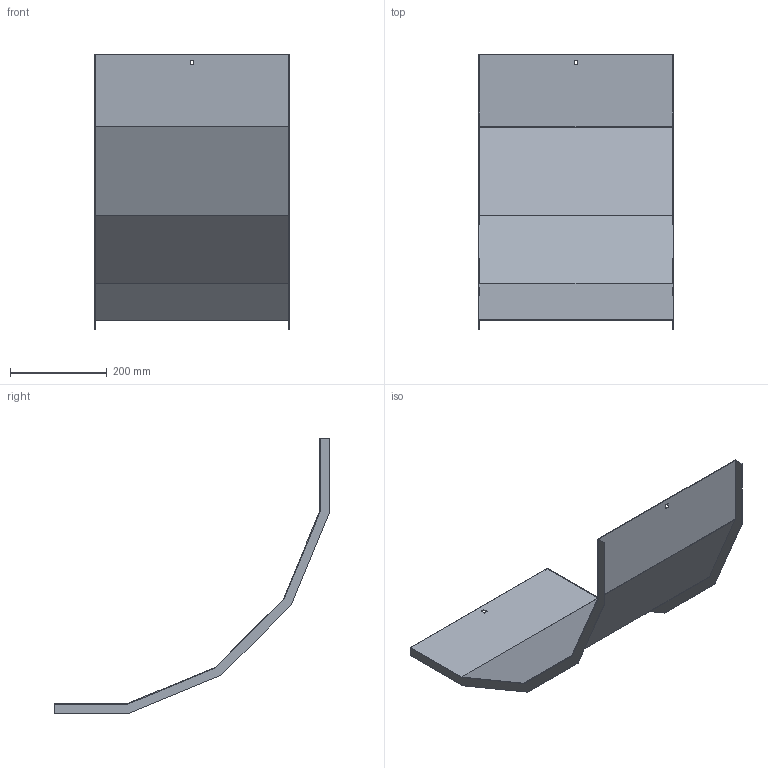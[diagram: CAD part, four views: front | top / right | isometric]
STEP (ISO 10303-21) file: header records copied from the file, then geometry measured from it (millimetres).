
FILE_DESCRIPTION (( 'STEP AP214' ), '1' );
FILE_NAME ('A2X30N5R400X.step', '2025-03-20T09:46:16', ( '' ), ( '' ), 'SwSTEP 2.0', 'SolidWorks 2023', '' );
FILE_SCHEMA (( 'AUTOMOTIVE_DESIGN' ));
Length unit declared in the file: millimetre
Products named in the file (1): A2X30N5R400X
Bounding box: 403 x 569.92 x 569.92 mm (x, y, z)
Volume: 592657.4 mm3; surface area: 794401.8 mm2
Topology: 1 solids, 1 shells, 34 faces, 96 edges, 64 vertices
Faces by surface type: plane 34
Entity records: 1111 total; most frequent: CARTESIAN_POINT 195, ORIENTED_EDGE 192, DIRECTION 166, VECTOR 96, EDGE_CURVE 96, LINE 96, VERTEX_POINT 64, EDGE_LOOP 38
